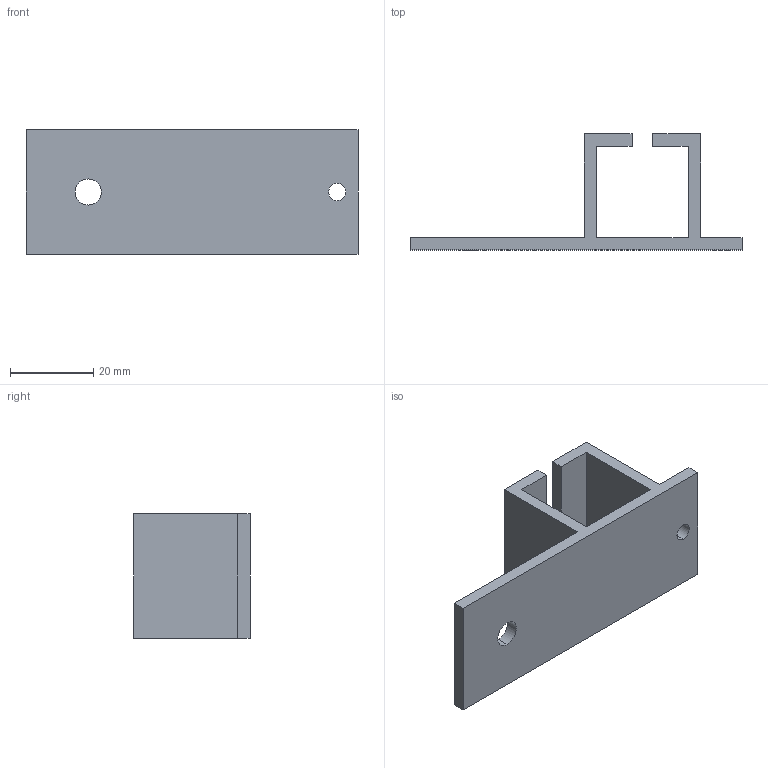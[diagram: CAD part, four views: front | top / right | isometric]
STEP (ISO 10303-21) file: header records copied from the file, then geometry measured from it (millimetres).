
FILE_DESCRIPTION (( 'STEP AP203' ), '1' );
FILE_NAME ('Cable Routing Base.STEP', '2019-10-31T18:03:04', ( '' ), ( '' ), 'SwSTEP 2.0', 'SolidWorks 2019', '' );
FILE_SCHEMA (( 'CONFIG_CONTROL_DESIGN' ));
Length unit declared in the file: millimetre
Products named in the file (1): Cable Routing Base
Bounding box: 80 x 28 x 30 mm (x, y, z)
Volume: 13094.9 mm3; surface area: 9890.9 mm2
Topology: 1 solids, 1 shells, 22 faces, 60 edges, 40 vertices
Faces by surface type: plane 18, cylinder 4
Entity records: 777 total; most frequent: CARTESIAN_POINT 123, ORIENTED_EDGE 120, DIRECTION 114, EDGE_CURVE 60, LINE 52, VECTOR 52, VERTEX_POINT 40, AXIS2_PLACEMENT_3D 31
